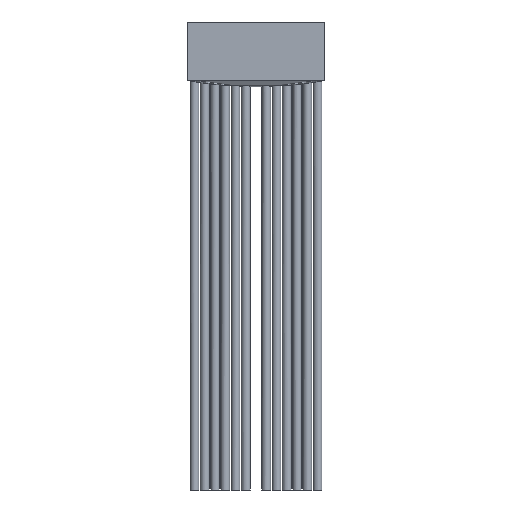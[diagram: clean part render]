
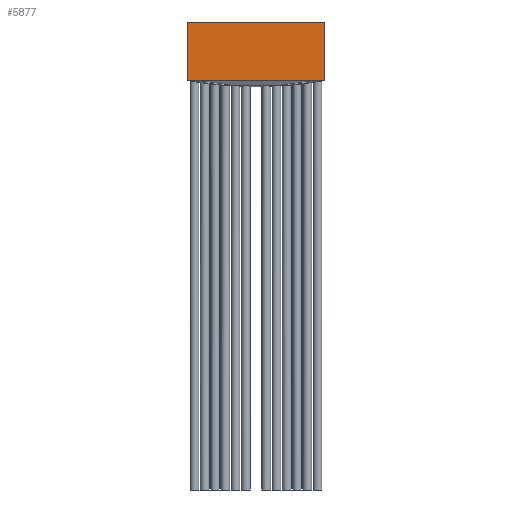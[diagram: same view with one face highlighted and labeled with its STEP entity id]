
A CAD part, front view. The second image highlights one B-rep face of the part: STEP entity #5877.
In plain terms, the highlighted planar face has unit normal (0, -1, 0).
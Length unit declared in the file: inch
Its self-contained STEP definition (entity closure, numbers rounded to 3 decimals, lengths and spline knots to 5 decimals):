
#21 = VERTEX_POINT ( 'NONE', #19170 ) ;
#2486 = EDGE_CURVE ( 'NONE', #5768, #2759, #6691, .T. ) ;
#2600 = VERTEX_POINT ( 'NONE', #17499 ) ;
#2759 = VERTEX_POINT ( 'NONE', #10053 ) ;
#3008 = ORIENTED_EDGE ( 'NONE', *, *, #3371, .F. ) ;
#3132 = CARTESIAN_POINT ( 'NONE',  ( -2.135, -0.0375, -0.1425 ) ) ;
#3371 = EDGE_CURVE ( 'NONE', #2600, #2759, #19690, .T. ) ;
#3630 = EDGE_LOOP ( 'NONE', ( #3008, #3836, #18336, #19995 ) ) ;
#3810 = VECTOR ( 'NONE', #15311, 39.37008 ) ;
#3836 = ORIENTED_EDGE ( 'NONE', *, *, #12658, .T. ) ;
#4045 = DIRECTION ( 'NONE',  ( -1., 0., 0. ) ) ;
#4057 = CARTESIAN_POINT ( 'NONE',  ( -2.135, -0.0375, -0.1425 ) ) ;
#4462 = FACE_OUTER_BOUND ( 'NONE', #3630, .T. ) ;
#5534 = EDGE_CURVE ( 'NONE', #21, #5768, #17381, .T. ) ;
#5552 = CARTESIAN_POINT ( 'NONE',  ( -2.135, -0.0375, 0.1425 ) ) ;
#5672 = VECTOR ( 'NONE', #4045, 39.37008 ) ;
#5768 = VERTEX_POINT ( 'NONE', #14746 ) ;
#5877 = ADVANCED_FACE ( 'NONE', ( #4462 ), #16729, .T. ) ;
#6691 = LINE ( 'NONE', #5552, #5672 ) ;
#8834 = DIRECTION ( 'NONE',  ( 1., 0., 0. ) ) ;
#8931 = VECTOR ( 'NONE', #20227, 39.37008 ) ;
#10053 = CARTESIAN_POINT ( 'NONE',  ( -0.335, -0.0375, 0.1425 ) ) ;
#12614 = DIRECTION ( 'NONE',  ( 1., 0., 0. ) ) ;
#12658 = EDGE_CURVE ( 'NONE', #2600, #21, #18470, .T. ) ;
#14282 = VECTOR ( 'NONE', #12614, 39.37008 ) ;
#14746 = CARTESIAN_POINT ( 'NONE',  ( 0.335, -0.0375, 0.1425 ) ) ;
#15311 = DIRECTION ( 'NONE',  ( 0., 0., 1. ) ) ;
#16729 = PLANE ( 'NONE',  #20437 ) ;
#17381 = LINE ( 'NONE', #20294, #8931 ) ;
#17499 = CARTESIAN_POINT ( 'NONE',  ( -0.335, -0.0375, -0.1425 ) ) ;
#18311 = DIRECTION ( 'NONE',  ( 0., -1., 0. ) ) ;
#18336 = ORIENTED_EDGE ( 'NONE', *, *, #5534, .T. ) ;
#18470 = LINE ( 'NONE', #3132, #14282 ) ;
#18487 = CARTESIAN_POINT ( 'NONE',  ( -0.335, -0.0375, -0.1425 ) ) ;
#19170 = CARTESIAN_POINT ( 'NONE',  ( 0.335, -0.0375, -0.1425 ) ) ;
#19690 = LINE ( 'NONE', #18487, #3810 ) ;
#19995 = ORIENTED_EDGE ( 'NONE', *, *, #2486, .T. ) ;
#20227 = DIRECTION ( 'NONE',  ( 0., 0., 1. ) ) ;
#20294 = CARTESIAN_POINT ( 'NONE',  ( 0.335, -0.0375, 0.1425 ) ) ;
#20437 = AXIS2_PLACEMENT_3D ( 'NONE', #4057, #18311, #8834 ) ;
